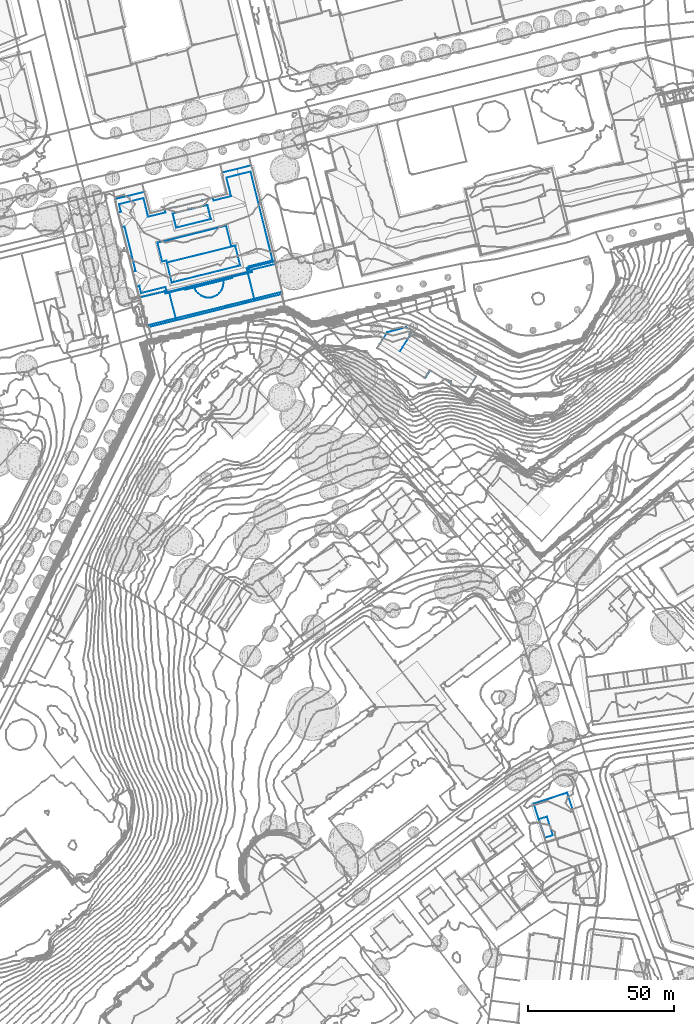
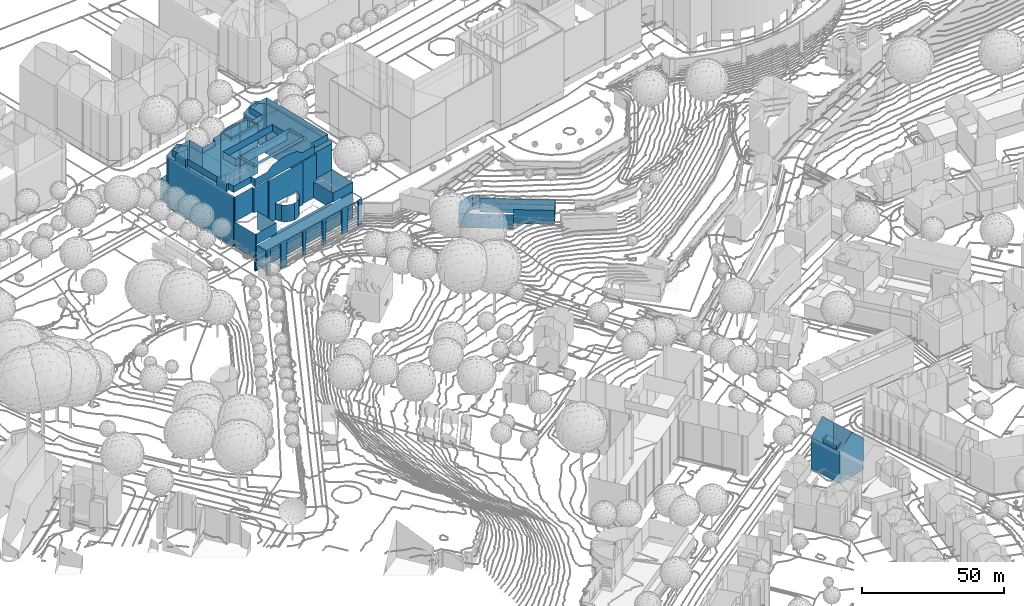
# Not in any storey, part 41 of 494: 3 walls.
"""IFC2X3 model written with IfcOpenShell, lengths in metres."""

from ifc_helpers import new_model, si_unit, frame, origin_with_axes, place, context, subcontext, project, faceted_brep, element, save


model = new_model("IFC2X3")

# Units and contexts
model_context = context("Model", 3, precision=1e-05, world=origin_with_axes())
body_context = subcontext(model_context, "Body", "Model", "MODEL_VIEW")
ifc_project = project(units=[si_unit("AREAUNIT", "SQUARE_METRE"), si_unit("LENGTHUNIT", "METRE")], contexts=[model_context])

# Walls
wall_1_placement = place(None, frame((444.9497320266, 154.9236160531, 498.9646), z_axis=(0.0, 0.0, 1.0), x_axis=(1.0, 0.0, 0.0)))
element("IfcWall", 1, at=wall_1_placement, Name="Wall 0", context=body_context, shape_type="Brep", body=[
    faceted_brep([(1.8170000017, -5.2655999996, 15.6915), (1.8170000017, -5.2655999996, 13.7497), (3.8170000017, -11.6053999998, 15.6915), (1.8170000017, -5.2655999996, 0.0), (3.8170000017, -11.6053999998, -0.083), (3.8170000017, -11.6053999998, 0.0), (1.8170000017, -5.2655999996, -0.083), (4.5199999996, -4.4131000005, 0.0), (6.5199999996, -10.753899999, 0.0), (4.5199999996, -4.4131000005, -0.083), (4.2390000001, -13.3515000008, 0.0), (0.0, 0.0, 13.6487), (0.0, 0.0, 0.0), (4.2390000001, -13.3515000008, 13.6667), (11.4510000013, 3.7851999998, 13.7747), (15.7390000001, -9.4306000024, 13.6967), (11.4510000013, 3.7851999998, 0.0), (15.7390000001, -9.4306000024, 0.0), (15.824000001, -9.6992000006, 13.6957), (15.824000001, -9.6992000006, 0.0), (0.4070000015, 0.1338, 13.9397), (0.4070000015, 0.1338, 0.0), (5.813000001, 1.9208999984, 0.0), (5.813000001, 1.9208999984, 19.4592), (11.2199999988, 3.7080000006, 13.9397), (11.2199999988, 3.7080000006, 0.0), (2.0839999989, -5.1816000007, 13.9397), (4.1539999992, -4.5293000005, 16.0445), (6.5199999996, -10.753899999, -0.083), (4.0839999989, -11.5214999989, 13.9397), (6.1539999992, -10.8691000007, 16.0445), (3.8170000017, -11.6053999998, 13.7497), (4.6229999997, -13.2303999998, 13.9397), (15.4829999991, -9.8066000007, 13.9397), (10.0920000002, -11.5058000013, 19.4192), (15.4829999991, -9.8066000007, 0.0), (10.0920000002, -11.5058000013, 0.0), (10.0529999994, -11.5175000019, 19.4592), (4.6229999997, -13.2303999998, 0.0), (10.0529999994, -11.5175000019, 0.0)], [[[0, 1, 2]], [[3, 4, 5]], [[4, 3, 6]], [[7, 8, 9]], [[10, 11, 12]], [[11, 10, 13]], [[14, 15, 16]], [[16, 15, 17]], [[17, 18, 19]], [[18, 17, 15]], [[16, 11, 20]], [[11, 21, 12]], [[22, 21, 11]], [[20, 23, 24]], [[14, 16, 20]], [[25, 22, 11]], [[11, 16, 25]], [[24, 14, 20]], [[7, 9, 6]], [[7, 6, 3]], [[1, 0, 26]], [[26, 0, 27]], [[5, 28, 8]], [[28, 5, 4]], [[29, 30, 31]], [[2, 31, 30]], [[32, 33, 34]], [[10, 18, 33]], [[18, 35, 19]], [[36, 35, 18]], [[34, 37, 32]], [[13, 10, 33]], [[10, 38, 18]], [[36, 18, 39]], [[39, 18, 38]], [[13, 33, 32]], [[31, 2, 1]], [[8, 28, 9]]]),
])
wall_2_placement = place(None, frame((300.9637320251, 364.7801160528, 537.8963), z_axis=(0.0, 0.0, 1.0), x_axis=(1.0, 0.0, 0.0)))
element("IfcWall", 2, at=wall_2_placement, Name="Wall 0", context=body_context, shape_type="Brep", body=[
    faceted_brep([(58.8509999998, -40.4404000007, 4.9125), (58.0329999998, -40.7666000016, 4.9125), (58.8509999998, -40.4404000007, -6.4715), (57.6660000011, -35.4618999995, 4.9125), (58.7060000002, -39.8291000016, 4.4505), (57.6660000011, -35.4618999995, 4.4505), (58.7060000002, -39.8291000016, -6.4715), (58.0490000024, -35.3662, 4.9125), (58.0490000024, -35.3662, 4.4505), (21.4079999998, -43.6601999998, 4.9125), (48.307, -36.9941999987, 4.9125), (21.4079999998, -43.6601999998, 1.8858), (52.1220000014, -42.2118999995, 4.4505), (56.9960000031, -41.0205000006, 4.4505), (49.2690000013, -42.9101999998, 4.4505), (58.0329999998, -40.7666000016, -6.4715), (41.501000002, -44.8115000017, 4.4505), (40.131000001, -45.1464999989, 4.4505), (40.131000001, -45.1464999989, -6.4714), (52.1220000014, -42.2118999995, -6.4715), (32.188000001, -47.0899000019, 4.4505), (56.9960000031, -41.0205000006, -6.4715), (41.501000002, -44.8115000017, -6.4714), (49.2690000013, -42.9101999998, -6.4715), (30.7829999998, -47.433600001, 4.4505), (13.4780000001, -51.6669999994, 4.9125), (22.9970000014, -49.3379000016, 4.4505), (32.188000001, -47.0899000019, -6.4714), (20.2660000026, -50.0069000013, 4.4505), (15.3530000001, -51.2080000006, 4.4505), (13.4780000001, -51.6669999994, -6.4714), (20.2660000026, -50.0067999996, -6.4714), (30.7829999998, -47.433600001, -6.4714), (15.3530000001, -51.2080000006, -6.4714), (22.9970000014, -49.3379000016, -6.4714), (21.5789999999, -44.3506000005, 9.588), (12.2490000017, -46.6621000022, 4.9125), (21.5789999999, -44.3506000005, 4.9125), (19.2240000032, -34.8456999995, 9.5881), (19.2240000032, -34.8456999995, 1.8858), (37.6650000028, -30.6640999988, -1.1589), (37.7380000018, -31.495099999, -1.1589), (37.6650000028, -30.6640999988, -1.2769), (27.9980000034, -33.6552999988, -1.1589), (27.7990000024, -33.1084000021, -1.1589), (27.9980000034, -33.6552999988, -1.2769), (28.443, -34.4268000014, -1.1589), (28.443, -34.4268000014, -1.2769), (29.0160000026, -35.1084000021, -1.1589), (29.0160000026, -35.1084000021, -1.2769), (30.074000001, -35.9199000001, 9.1841), (29.0160000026, -35.1084000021, 9.1841), (30.074000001, -35.9199000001, 1.8858), (30.881000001, -36.2978999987, -1.1589), (30.074000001, -35.9199000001, -1.1589), (30.881000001, -36.2978999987, -1.2769), (31.7410000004, -36.5274000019, -1.1589), (31.7410000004, -36.5274000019, -1.2769), (32.6290000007, -36.6055000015, -1.1589), (32.6290000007, -36.6055000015, -1.2769), (33.5160000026, -36.5274000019, -1.1589), (33.5160000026, -36.5274000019, -1.2769), (34.376000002, -36.2978999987, -1.1589), (34.376000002, -36.2978999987, -1.2769), (35.5590000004, -35.6816000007, -1.1589), (35.5590000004, -35.6816000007, -1.2769), (36.2420000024, -35.1084000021, -1.1589), (36.2420000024, -35.1084000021, -1.2769), (37.0540000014, -34.0507999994, 9.1841), (36.2420000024, -35.1084000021, 9.1841), (37.0540000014, -34.0507999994, 1.8858), (37.4299999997, -33.2432000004, -1.1589), (37.0540000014, -34.0507999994, -1.1589), (37.4299999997, -33.2432000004, -1.2769), (37.6600000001, -32.3828000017, -1.1589), (37.6600000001, -32.3828000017, -1.2769), (37.7380000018, -31.495099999, -1.2769), (37.6650000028, -30.6640999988, 9.1841), (37.7380000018, -31.495099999, 9.1841), (37.6650000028, -30.6640999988, 1.8858), (27.9980000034, -33.6552999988, 9.1841), (27.7990000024, -33.1084000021, 9.1841), (27.9980000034, -33.6552999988, 1.8858), (28.443, -34.4268000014, 9.1841), (28.443, -34.4268000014, 1.8858), (29.0160000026, -35.1084000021, 1.8858), (30.074000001, -35.9199000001, -1.2769), (30.881000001, -36.2978999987, 9.1841), (30.881000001, -36.2978999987, 1.8858), (31.7410000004, -36.5274000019, 9.1841), (31.7410000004, -36.5274000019, 1.8858), (32.6290000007, -36.6055000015, 9.1841), (32.6290000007, -36.6055000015, 1.8858), (33.5160000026, -36.5274000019, 9.1841), (33.5160000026, -36.5274000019, 1.8858), (34.376000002, -36.2978999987, 9.1841), (34.376000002, -36.2978999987, 1.8858), (35.5590000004, -35.6816000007, 9.1841), (35.5590000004, -35.6816000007, 1.8858), (36.2420000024, -35.1084000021, 1.8858), (37.0540000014, -34.0507999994, -1.2769), (37.4299999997, -33.2432000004, 9.1841), (37.4299999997, -33.2432000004, 1.8858), (37.6600000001, -32.3828000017, 9.1841), (37.6600000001, -32.3828000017, 1.8858), (37.7380000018, -31.495099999, 1.8858), (19.2240000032, -34.8456999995, -1.1589), (21.4079999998, -43.6601999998, -1.1589), (19.2240000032, -34.8456999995, -1.2229), (0.7870000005, -3.8740000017, 20.5981), (0.9510000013, -3.8330000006, 20.687), (0.7870000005, -3.8740000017, 15.0906), (0.9510000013, -3.8330000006, -1.3418), (0.7870000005, -3.8740000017, -1.3418), (11.0780000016, -1.3526000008, 9.6301), (10.9240000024, -1.3925999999, -1.3419), (10.9240000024, -1.3925999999, 20.76), (37.4010000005, 5.1552000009, 20.654), (37.5710000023, 5.1942999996, 12.4598), (37.4010000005, 5.1552999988, 9.6121), (37.5710000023, 5.1942999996, -1.3419), (47.5240000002, 7.6873999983, -1.3419), (47.5240000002, 7.6875, 20.775), (47.6920000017, 7.7285000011, 20.687), (47.6921000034, 7.7285000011, 15.1575), (47.6920000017, 7.7285000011, 9.6281), (47.6920000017, 7.7285000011, 4.0996), (47.6920000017, 7.7285000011, -1.3419), (55.4079999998, -24.6026000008, 20.589), (55.6980000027, -24.5331999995, 15.1045), (55.6980000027, -24.5331999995, 20.588), (55.6980000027, -24.5331999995, 9.622), (55.6980000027, -24.5331999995, -1.3419), (55.4079999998, -24.6026000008, -1.3419), (9.0480000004, -36.0459000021, 9.5881), (9.0480000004, -36.0498000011, 20.614), (8.814000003, -36.1044999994, 20.616), (9.0480000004, -36.0459000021, -1.2229), (8.814000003, -36.1044999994, -1.3419), (9.0480000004, -36.0498000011, -1.3419), (55.5190000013, -25.0557000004, 20.327), (47.3420000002, -27.0811000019, 8.9001), (55.5190000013, -25.0557000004, 8.9001), (47.3420000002, -27.0811000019, 20.327), (47.5280000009, -27.8320000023, 20.327), (45.7240000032, -26.5703000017, -1.3419), (55.3100000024, -24.2030999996, -1.3419), (45.7240000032, -26.5703000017, -1.4109), (36.6130000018, 9.0566000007, 9.4711), (46.5520000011, 11.5449000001, 9.4711), (36.6130000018, 9.0566000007, 0.7599), (34.0950000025, -2.371100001, 23.8777), (34.3390000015, -3.3535000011, 21.4279), (34.0950000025, -2.371100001, 20.833), (17.9100000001, -7.4237999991, 23.8777), (17.6640000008, -6.432599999, 23.8777), (17.9100000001, -7.4237999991, 21.428), (11.9610000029, -8.8984000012, 23.8777), (11.9610000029, -8.8984999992, 21.429), (0.0, 0.0, 9.4711), (9.9670000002, 2.4765000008, 9.4711), (0.0, 0.0, 0.0), (21.4079999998, -43.6601999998, -1.2229), (48.307, -36.9941999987, -1.159), (11.568, -46.0986000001, -6.4714), (11.568, -46.0986000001, -1.2229), (48.307, -36.9941999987, -1.4109), (57.8670000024, -34.625, -1.4109), (57.8670000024, -34.625, -6.4714), (17.6770000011, -34.4316999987, -1.2229), (9.1720000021, -36.5390999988, -1.2229), (17.6770000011, -34.4316999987, -1.3419), (17.6770000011, -34.4316999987, 20.327), (9.1720000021, -36.5390999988, 9.5881), (17.6770000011, -34.4316999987, 9.5881), (17.8630000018, -35.182599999, -1.2229), (17.8630000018, -35.182599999, -1.3419), (17.8630000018, -35.182599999, 20.327), (17.8630000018, -35.182599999, 9.5881), (24.5450000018, -33.5263999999, 20.327), (24.5450000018, -33.5263999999, 1.8858), (24.5450000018, -33.5263999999, -1.3419), (24.5450000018, -33.5263999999, -1.1589), (24.6359999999, -33.8925999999, 20.327), (24.6359999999, -33.8925999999, 1.8858), (24.6359999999, -33.8925999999, -1.1589), (24.6359999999, -33.8925999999, -1.3419), (40.7200000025, -29.9072000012, -1.1589), (27.7990000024, -33.1084000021, -1.2769), (40.7200000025, -29.9072000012, -1.3419), (40.7200000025, -29.9072000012, 20.327), (40.7200000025, -29.9072000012, 1.8858), (27.7990000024, -33.1084000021, 1.8858), (40.6290000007, -29.5410000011, 20.327), (40.6290000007, -29.5410000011, 1.8858), (40.6290000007, -29.5410000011, -1.1589), (40.6290000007, -29.5410000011, -1.3419), (46.1230000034, -28.1807000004, 8.9001), (47.5280000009, -27.8320000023, 8.9001), (46.1230000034, -28.1807000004, 1.8858), (46.1230000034, -28.1807000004, -1.1589), (46.1230000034, -28.1807000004, -1.3419), (58.0370000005, -35.317400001, 8.9001), (48.4780000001, -37.6865000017, 8.9001), (58.0370000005, -35.317400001, 4.9125), (48.4780000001, -37.6865000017, 4.9125), (48.307, -36.9941999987, 1.8858), (12.2380000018, -46.6172000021, 9.588), (11.7280000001, -46.7373000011, 9.588), (12.2380000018, -46.6172000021, -6.4714), (13.3270000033, -51.072300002, 4.4505), (12.2490000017, -46.6631000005, 4.4505), (13.3320000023, -51.0713, -6.4714), (12.2490000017, -46.6621000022, 9.588), (12.2490000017, -46.6631000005, -6.4714), (8.1330000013, -33.3682000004, 20.617), (7.9890000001, -32.7899999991, 20.616), (6.7240000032, -27.7089999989, 20.613), (2.943, -12.5283000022, 20.603), (1.6770000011, -7.4483000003, 20.6001), (0.7080000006, -2.8544999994, -1.3418), (0.7080000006, -2.8544999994, 0.0), (5.6190000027, -1.6376999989, -1.3418), (5.6190000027, -1.6376999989, 0.0), (10.6750000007, -0.3858000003, 0.0), (10.6750000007, -0.3858000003, -1.3418), (12.5890000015, -7.4287, -1.3419), (11.0780000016, -1.3526000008, -1.3419), (12.6469999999, -7.6621000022, -1.3419), (11.0780000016, -1.3526000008, 20.68), (12.5890000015, -7.4287, 20.678), (12.6469999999, -7.6621000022, 20.82), (38.8990000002, -0.870099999, 20.656), (38.9700000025, -1.1581999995, -1.3419), (38.9700000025, -1.1581999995, 20.83), (37.4010000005, 5.1552999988, -1.3419), (38.8990000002, -0.870099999, -1.3419), (21.318, -5.7001999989, -1.3419), (21.2770000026, -5.5459000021, -1.3419), (21.2770000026, -5.5459000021, 24.9056), (21.318, -5.7001999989, 24.9086), (0.7080000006, -2.8544999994, 20.686), (5.6190000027, -1.6376999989, 23.3528), (0.7080000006, -2.8544999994, 9.4711), (10.6750000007, -0.3858000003, 20.759), (10.6750000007, -0.3858000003, 9.4711), (5.6190000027, -1.6376999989, 9.4711), (37.318, 6.2168000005, 9.4711), (37.318, 6.2168000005, 20.741), (42.375, 7.4697000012, 9.4711), (47.2730000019, 8.683600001, 9.4711), (42.375, 7.4697000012, 23.3528), (47.2730000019, 8.683600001, 20.778), (46.5520000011, 11.5449000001, 0.7599), (47.2730000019, 8.683600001, 0.7599), (47.2730000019, 8.683600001, -1.3419), (55.6579999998, -24.371100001, 20.681), (37.5710000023, 5.1942999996, 20.741), (37.318, 6.2168000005, 0.7599), (37.318, 6.2168000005, -1.3419), (42.375, 7.4697000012, -1.3419), (42.375, 7.4697000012, 0.7599), (33.7430000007, -2.4589999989, 24.3917), (30.4520000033, -3.2774000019, 24.3967), (30.3570000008, -3.3018000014, 24.4837), (30.3568000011, -3.3018000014, -1.3419), (30.3940000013, -3.4512000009, 24.5826), (30.3740000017, -3.371100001, 24.4847), (30.3940000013, -3.4512000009, -1.3419), (17.6640000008, -6.432599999, 20.827), (18.0100000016, -6.3476999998, 24.3817), (20.7160000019, -5.6845999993, 24.3887), (24.2210000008, -4.9814999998, 25.8795), (21.7900000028, -5.5830000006, 25.3436), (25.626000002, -4.6338, 25.9505), (27.0300000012, -4.2851999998, 25.8795), (29.4630000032, -3.682599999, 25.3436), (30.2870000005, -3.4785000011, 24.5836), (9.9670000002, 2.4765000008, 0.0), (55.3100000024, -24.2030999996, -1.4109), (58.0370000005, -35.316399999, -6.4714), (58.0370000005, -35.316399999, 4.4505), (11.7280000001, -46.7373000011, -6.4714), (9.1710000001, -36.5390999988, -1.3419), (9.1710000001, -36.5390999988, 20.327), (24.444000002, -6.7910000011, 27.1334), (29.2829999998, -5.5927999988, 27.1324), (32.2520000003, -4.8564999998, 26.4105), (20.375, -7.7998000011, 27.1334), (20.375, -7.7998000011, 26.4105), (32.2520000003, -4.8564999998, 27.1324), (33.449000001, -9.6865000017, 27.1394), (30.4790000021, -10.4228999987, 27.1394), (33.449000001, -9.6865000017, 26.4105), (21.5710000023, -12.628899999, 27.1394), (21.5710000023, -12.628899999, 26.4105), (33.4350000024, -9.6317999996, 27.1724), (20.0600000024, -31.3905999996, 27.6293), (18.3850000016, -24.6317999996, 27.5583), (18.3770000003, -24.5976999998, 26.4105), (20.0600000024, -31.3905999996, 26.4104), (18.3770000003, -24.5976999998, 27.5383), (2.943, -12.5283000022, 23.8777), (2.8500000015, -12.1533000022, 24.1817), (1.7910000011, -7.9052999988, 24.1767), (1.6770000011, -7.4483000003, 23.8777), (7.9890000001, -32.7899999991, 23.8777), (7.8890000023, -32.3887000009, 24.2037), (6.8470000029, -28.2021999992, 24.1997), (6.7240000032, -27.7089999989, 23.8777), (32.268000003, -4.9228999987, 27.1734), (21.557, -12.5742000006, 27.1734), (20.3920000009, -7.8662, 27.1734), (43.4910000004, -25.5850000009, 27.6293), (41.8080000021, -18.7919999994, 26.4104), (41.8160000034, -18.8251999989, 27.5583), (43.4910000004, -25.5850000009, 26.4104), (41.8080000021, -18.7919999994, 27.5383), (43.432, -25.6006000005, 27.6663), (20.120000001, -31.375, 27.6663), (18.3710000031, -34.7675999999, 20.327), (18.3710000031, -34.7675999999, 23.8777), (18.2520000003, -34.2881000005, 20.327), (17.9210000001, -32.9501999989, 21.112), (17.9210000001, -32.9501999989, 23.8777), (9.5610000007, -35.0214999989, 21.112), (18.2440000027, -23.875, 26.4105), (18.4200000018, -24.5859999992, 26.4105), (18.2440000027, -23.875, 23.3527), (34.3390000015, -3.3535000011, 23.8777), (40.3460000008, -1.8652999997, 21.4289), (40.3460000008, -1.8652999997, 23.8777), (38.7640000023, 4.5194999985, 23.8777), (38.7640000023, 4.5194999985, 21.24), (40.2690000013, -1.5547000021, 21.24), (42.8550000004, 5.5331999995, 23.3528), (47.0410000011, 6.5702999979, 23.8777), (47.0410000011, 6.5702999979, 21.152), (54.5620000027, -23.7813000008, 21.1509), (54.5830000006, -23.8652999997, 23.8777), (54.5700000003, -23.8145000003, 21.1399), (54.5830000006, -23.8652999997, 21.1119), (46.3060000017, -25.9160000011, 23.8777), (46.3060000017, -25.9160000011, 21.1119), (46.756000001, -27.7334000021, 23.8777), (46.6380000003, -27.2558999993, 20.327), (46.756000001, -27.7334000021, 20.327), (2.6680000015, -7.2021999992, 21.138), (2.6680000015, -7.2021999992, 23.8777), (2.0190000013, -4.5850000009, 23.8777), (7.6900000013, -27.4706999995, 23.8777), (3.9270000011, -12.2842000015, 23.8777), (7.6900000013, -27.4706999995, 21.138), (9.5609000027, -35.0214999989, 23.8777), (9.5549999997, -34.996100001, 21.126), (9.5480000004, -34.9688000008, 21.136), (8.949000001, -32.5527000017, 23.8777), (8.949000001, -32.5527000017, 21.138), (10.3790000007, -2.5146999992, 23.8777), (10.3790000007, -2.5146999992, 21.157), (11.8500000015, -8.4512000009, 21.157), (2.0190000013, -4.5850000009, 21.138), (6.0990000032, -3.5742000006, 23.3528), (3.9270000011, -12.2842000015, 21.138), (16.7770000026, -24.2382999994, 26.4105), (16.7770000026, -24.2382999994, 23.3527), (15.1810000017, -17.8007999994, 26.4105), (15.1810000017, -17.8007999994, 23.3528), (38.6730000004, -11.9785000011, 26.4105), (38.6730000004, -11.9785000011, 23.3527), (40.4450000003, -19.1308999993, 26.4104), (40.4450000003, -19.1308999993, 23.3527), (24.2350000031, -23.1464999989, 27.5383), (18.4200000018, -24.5859999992, 23.3527), (30.0420000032, -21.7070000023, 27.5383), (26.6950000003, -32.7041000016, 25.6685), (40.7480000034, -29.2226999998, 23.8777), (38.3370000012, -29.8192999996, 25.6685), (30.3859999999, -31.7901000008, 26.3244), (34.6469999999, -30.7344000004, 26.3244), (24.2840000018, -33.3027000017, 23.8777), (32.5160000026, -31.2626999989, 26.4104), (56.8170000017, -40.2978999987, -6.4715), (56.8170000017, -40.2978999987, 4.4505), (15.2039999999, -50.6074000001, 4.4505), (15.2039999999, -50.6074000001, -6.4714), (20.1130000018, -49.3916000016, -6.4714), (20.1130000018, -49.3916000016, 4.4505), (22.8430000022, -48.7158000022, -6.4714), (22.8430000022, -48.7158000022, 4.4505), (30.6230000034, -46.7871000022, -6.4714), (30.6230000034, -46.7871000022, 4.4505), (32.0270000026, -46.4395000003, -6.4714), (32.0270000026, -46.4395000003, 4.4505), (39.9640000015, -44.4736000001, -6.4714), (39.9640000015, -44.4736000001, 4.4505), (41.3330000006, -44.1338, -6.4714), (41.3330000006, -44.1338, 4.4505), (49.0950000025, -42.2100000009, -6.4714), (49.0950000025, -42.2100000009, 4.4505), (51.9470000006, -41.503899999, -6.4715), (51.9470000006, -41.503899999, 4.4505), (24.9180000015, -11.8007999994, 27.1394)], [[[0, 1, 2]], [[3, 4, 5]], [[4, 3, 0]], [[4, 2, 6]], [[2, 4, 0]], [[7, 3, 8]], [[9, 10, 11]], [[1, 12, 13]], [[12, 1, 14]], [[1, 13, 15]], [[1, 16, 14]], [[16, 1, 17]], [[16, 17, 18]], [[19, 12, 14]], [[1, 20, 17]], [[21, 15, 13]], [[18, 22, 16]], [[19, 14, 23]], [[24, 25, 26]], [[25, 24, 20]], [[20, 24, 27]], [[28, 25, 29]], [[25, 28, 26]], [[29, 25, 30]], [[26, 28, 31]], [[20, 1, 25]], [[32, 27, 24]], [[30, 33, 29]], [[34, 26, 31]], [[35, 36, 37]], [[38, 9, 39]], [[9, 38, 35]], [[39, 9, 11]], [[37, 9, 35]], [[40, 41, 42]], [[43, 44, 45]], [[46, 43, 47]], [[48, 46, 49]], [[50, 51, 52]], [[53, 54, 55]], [[56, 53, 57]], [[58, 56, 59]], [[60, 58, 61]], [[62, 60, 63]], [[64, 62, 65]], [[66, 64, 67]], [[68, 69, 70]], [[71, 72, 73]], [[74, 71, 75]], [[41, 74, 76]], [[77, 78, 79]], [[80, 81, 82]], [[83, 80, 84]], [[51, 83, 85]], [[54, 48, 86]], [[87, 50, 88]], [[89, 87, 90]], [[91, 89, 92]], [[93, 91, 94]], [[95, 93, 96]], [[97, 95, 98]], [[69, 97, 99]], [[72, 66, 100]], [[101, 68, 102]], [[103, 101, 104]], [[78, 103, 105]], [[106, 107, 108]], [[109, 110, 111]], [[110, 112, 113]], [[114, 115, 116]], [[117, 118, 119]], [[120, 119, 118]], [[121, 122, 123]], [[124, 121, 123]], [[125, 121, 124]], [[126, 127, 121]], [[128, 129, 130]], [[131, 128, 132]], [[132, 128, 133]], [[134, 135, 136]], [[137, 134, 138]], [[137, 138, 139]], [[138, 134, 136]], [[140, 141, 142]], [[143, 144, 141]], [[145, 146, 147]], [[148, 149, 150]], [[151, 152, 153]], [[154, 155, 156]], [[157, 154, 158]], [[159, 160, 161]], [[162, 107, 163]], [[164, 165, 162]], [[162, 166, 164]], [[163, 166, 162]], [[167, 168, 166]], [[166, 168, 164]], [[169, 170, 171]], [[172, 173, 174]], [[175, 169, 176]], [[177, 172, 178]], [[179, 38, 180]], [[38, 179, 177]], [[180, 38, 39]], [[178, 38, 177]], [[181, 182, 108]], [[108, 182, 106]], [[108, 175, 176]], [[108, 176, 181]], [[183, 179, 184]], [[185, 182, 186]], [[187, 40, 42]], [[188, 189, 42]], [[42, 189, 187]], [[44, 185, 188]], [[186, 188, 185]], [[190, 77, 191]], [[77, 190, 81]], [[79, 191, 77]], [[81, 183, 184]], [[183, 81, 190]], [[184, 192, 81]], [[193, 190, 194]], [[195, 187, 196]], [[144, 197, 198]], [[197, 144, 193]], [[197, 194, 199]], [[194, 197, 193]], [[200, 195, 201]], [[202, 203, 204]], [[10, 205, 203]], [[10, 197, 199]], [[197, 10, 203]], [[10, 199, 206]], [[163, 201, 166]], [[201, 145, 147]], [[201, 147, 166]], [[207, 208, 209]], [[25, 210, 30]], [[210, 36, 211]], [[210, 212, 30]], [[213, 207, 36]], [[211, 209, 214]], [[36, 207, 211]], [[211, 207, 209]], [[136, 215, 138]], [[138, 216, 217]], [[216, 138, 215]], [[138, 217, 218]], [[111, 218, 219]], [[111, 219, 109]], [[113, 218, 111]], [[218, 113, 138]], [[220, 221, 222]], [[222, 221, 223]], [[223, 224, 225]], [[223, 225, 222]], [[226, 227, 114]], [[114, 228, 226]], [[229, 230, 228]], [[229, 228, 114]], [[228, 230, 231]], [[232, 117, 119]], [[232, 233, 234]], [[119, 235, 236]], [[236, 233, 119]], [[119, 233, 232]], [[237, 238, 239]], [[239, 240, 237]], [[241, 242, 243]], [[243, 242, 244]], [[244, 245, 246]], [[244, 246, 243]], [[247, 248, 249]], [[249, 248, 250]], [[250, 251, 252]], [[251, 250, 248]], [[250, 252, 122]], [[250, 253, 149]], [[253, 250, 254]], [[250, 121, 254]], [[121, 250, 122]], [[254, 121, 255]], [[124, 123, 256]], [[126, 132, 127]], [[131, 126, 125]], [[124, 129, 125]], [[256, 130, 129]], [[129, 131, 125]], [[132, 126, 131]], [[124, 256, 129]], [[118, 257, 248]], [[120, 118, 247]], [[248, 247, 118]], [[150, 258, 148]], [[259, 120, 258]], [[258, 120, 247]], [[259, 258, 260]], [[260, 258, 261]], [[261, 254, 255]], [[261, 255, 260]], [[262, 151, 263]], [[264, 263, 265]], [[151, 153, 263]], [[153, 234, 233]], [[265, 263, 233]], [[233, 263, 153]], [[266, 267, 268]], [[264, 265, 268]], [[264, 268, 267]], [[231, 269, 228]], [[238, 228, 269]], [[269, 239, 238]], [[155, 270, 271]], [[271, 239, 269]], [[155, 271, 269]], [[237, 272, 268]], [[237, 240, 273]], [[237, 273, 272]], [[272, 274, 268]], [[275, 276, 268]], [[268, 277, 266]], [[277, 268, 276]], [[275, 268, 274]], [[243, 112, 110]], [[243, 110, 241]], [[243, 159, 221]], [[161, 221, 159]], [[220, 112, 221]], [[221, 112, 243]], [[160, 245, 224]], [[224, 278, 160]], [[115, 225, 224]], [[224, 245, 115]], [[244, 116, 115]], [[244, 115, 245]], [[133, 128, 142]], [[133, 279, 146]], [[279, 133, 167]], [[142, 202, 204]], [[142, 128, 140]], [[204, 7, 8]], [[142, 204, 167]], [[168, 167, 280]], [[280, 167, 281]], [[8, 281, 204]], [[167, 204, 281]], [[167, 133, 142]], [[282, 208, 165]], [[165, 208, 170]], [[282, 165, 164]], [[283, 170, 139]], [[208, 173, 170]], [[134, 173, 284]], [[134, 284, 135]], [[137, 139, 170]], [[137, 173, 134]], [[137, 170, 173]], [[285, 286, 287]], [[288, 285, 289]], [[287, 289, 285]], [[286, 290, 287]], [[291, 292, 293]], [[294, 295, 293]], [[296, 291, 293]], [[297, 298, 299]], [[300, 297, 299]], [[298, 301, 299]], [[218, 302, 303]], [[218, 303, 304]], [[219, 304, 305]], [[304, 219, 218]], [[306, 307, 216]], [[216, 307, 217]], [[308, 309, 217]], [[308, 217, 307]], [[287, 290, 310]], [[296, 293, 310]], [[310, 293, 287]], [[295, 294, 311]], [[311, 312, 295]], [[289, 312, 288]], [[312, 289, 295]], [[313, 314, 315]], [[316, 314, 313]], [[315, 314, 317]], [[313, 318, 316]], [[300, 316, 319]], [[316, 318, 319]], [[300, 319, 297]], [[320, 321, 322]], [[321, 323, 322]], [[323, 321, 324]], [[324, 325, 323]], [[326, 327, 328]], [[329, 330, 152]], [[331, 332, 330]], [[330, 333, 334]], [[333, 332, 335]], [[335, 336, 337]], [[336, 335, 332]], [[336, 338, 337]], [[338, 336, 339]], [[339, 340, 338]], [[341, 340, 339]], [[339, 342, 341]], [[343, 342, 344]], [[345, 344, 346]], [[344, 345, 343]], [[305, 347, 219]], [[348, 349, 347]], [[350, 351, 352]], [[353, 354, 325]], [[354, 353, 355]], [[355, 356, 357]], [[356, 355, 353]], [[358, 158, 359]], [[359, 158, 360]], [[361, 349, 362]], [[362, 358, 359]], [[358, 362, 349]], [[351, 302, 363]], [[356, 306, 357]], [[309, 352, 217]], [[364, 326, 365]], [[366, 364, 367]], [[368, 366, 369]], [[370, 368, 371]], [[370, 301, 372]], [[301, 370, 327]], [[327, 299, 301]], [[373, 327, 370]], [[317, 314, 370]], [[317, 370, 374]], [[371, 373, 370]], [[375, 376, 377]], [[344, 376, 346]], [[346, 376, 320]], [[378, 377, 379]], [[378, 375, 377]], [[380, 321, 320]], [[381, 378, 379]], [[382, 383, 6]], [[214, 281, 211]], [[210, 384, 212]], [[385, 384, 33]], [[31, 28, 386]], [[386, 387, 388]], [[388, 389, 34]], [[32, 24, 390]], [[390, 391, 392]], [[392, 393, 27]], [[18, 17, 394]], [[394, 395, 396]], [[396, 397, 22]], [[23, 14, 398]], [[398, 399, 400]], [[400, 401, 19]], [[21, 13, 382]], [[1, 15, 2]], [[3, 5, 8]], [[10, 206, 11]], [[213, 36, 35]], [[41, 76, 42]], [[44, 188, 45]], [[43, 45, 47]], [[46, 47, 49]], [[51, 85, 52]], [[54, 86, 55]], [[53, 55, 57]], [[56, 57, 59]], [[58, 59, 61]], [[60, 61, 63]], [[62, 63, 65]], [[64, 65, 67]], [[69, 99, 70]], [[72, 100, 73]], [[71, 73, 75]], [[74, 75, 76]], [[78, 105, 79]], [[81, 192, 82]], [[80, 82, 84]], [[83, 84, 85]], [[48, 49, 86]], [[50, 52, 88]], [[87, 88, 90]], [[89, 90, 92]], [[91, 92, 94]], [[93, 94, 96]], [[95, 96, 98]], [[97, 98, 99]], [[66, 67, 100]], [[68, 70, 102]], [[101, 102, 104]], [[103, 104, 105]], [[107, 162, 108]], [[113, 111, 110]], [[114, 227, 115]], [[114, 116, 229]], [[235, 119, 120]], [[257, 118, 117]], [[125, 126, 121]], [[131, 129, 128]], [[143, 141, 140]], [[144, 198, 141]], [[146, 279, 147]], [[149, 253, 150]], [[329, 152, 151]], [[155, 269, 156]], [[154, 156, 158]], [[160, 278, 161]], [[170, 283, 171]], [[284, 173, 172]], [[169, 171, 176]], [[172, 174, 178]], [[179, 180, 184]], [[182, 181, 186]], [[186, 189, 188]], [[190, 191, 194]], [[187, 189, 196]], [[195, 196, 201]], [[203, 205, 204]], [[200, 201, 163]], [[208, 282, 209]], [[25, 36, 210]], [[258, 247, 148]], [[292, 402, 293]], [[293, 402, 294]], [[353, 325, 324]], [[327, 373, 328]], [[331, 330, 329]], [[332, 333, 330]], [[342, 343, 341]], [[348, 347, 305]], [[349, 361, 347]], [[351, 363, 352]], [[157, 158, 358]], [[302, 218, 363]], [[306, 216, 357]], [[350, 352, 309]], [[326, 328, 365]], [[364, 365, 367]], [[366, 367, 369]], [[368, 369, 371]], [[374, 370, 372]], [[380, 376, 375]], [[376, 380, 320]], [[383, 4, 6]], [[280, 281, 214]], [[384, 385, 212]], [[384, 29, 33]], [[28, 387, 386]], [[387, 389, 388]], [[389, 26, 34]], [[24, 391, 390]], [[391, 393, 392]], [[393, 20, 27]], [[17, 395, 394]], [[395, 397, 396]], [[397, 16, 22]], [[14, 399, 398]], [[399, 401, 400]], [[401, 12, 19]], [[13, 383, 382]]]),
])
wall_3_placement = place(None, frame((391.3277320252, 310.9148160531, 527.1172), z_axis=(0.0, 0.0, 1.0), x_axis=(1.0, 0.0, 0.0)))
element("IfcWall", 3, at=wall_3_placement, Name="Wall 0", context=body_context, shape_type="Brep", body=[
    faceted_brep([(30.3090000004, -15.3720000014, 6.0964), (18.0890000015, -7.6561999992, 6.0964), (30.3090000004, -15.3720000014, 0.0), (12.0410000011, 5.6563000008, 6.0964), (11.2880000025, 4.4638999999, 6.0964), (12.0410000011, 5.6563000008, 0.0), (9.9020000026, 7.1435999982, 6.4904), (9.9020000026, 7.1435999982, 0.0), (33.8420000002, -9.7773000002, 6.0964), (11.2880000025, 4.4638999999, 0.0), (16.3900000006, -10.3465999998, 6.0964), (0.0, 0.0, 6.0964), (16.3900000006, -10.3465999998, 0.0), (3.4290000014, 5.433600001, 6.5614), (4.3859999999, 5.6865999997, 6.6644), (4.3859999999, 5.6865999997, 0.0), (3.4290000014, 5.433600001, 0.0), (8.2710000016, 6.7128999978, 6.6644), (8.2710000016, 6.7128999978, 0.0), (7.7550000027, -1.1308000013, 6.0964), (8.6830000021, 0.3378999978, 6.9823), (8.6830000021, 0.3378999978, 6.0964), (9.5300000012, 1.6796999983, 6.0964), (33.8420000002, -9.7773000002, 0.0), (32.9730000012, -11.1543000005, 0.0), (32.0840000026, -12.5615000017, 6.0964), (32.0840000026, -12.5615000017, 0.0), (31.2369999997, -13.9023000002, 0.0), (31.2369999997, -13.9023000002, 6.9823), (32.9730000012, -11.1543000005, 6.9343), (10.4189999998, 3.0869999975, 6.9343), (10.4189999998, 3.0869999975, 6.0964), (18.0890000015, -7.6561999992, 0.0), (17.2910000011, -8.9199000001, 6.9543), (0.9010000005, 1.4267999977, 6.9543), (0.9010000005, 1.4267999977, 0.0), (0.0, 0.0, 0.0), (1.700000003, 2.6915000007, 0.0), (1.700000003, 2.6915000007, 6.0964)], [[[0, 1, 2]], [[3, 4, 5]], [[6, 3, 7]], [[4, 8, 9]], [[10, 11, 12]], [[13, 14, 15]], [[15, 16, 13]], [[14, 17, 15]], [[17, 6, 18]], [[7, 18, 6]], [[17, 18, 15]], [[19, 20, 21]], [[22, 21, 20]], [[23, 8, 24]], [[25, 26, 24]], [[25, 27, 26]], [[25, 24, 8]], [[0, 2, 27]], [[0, 25, 28]], [[27, 25, 0]], [[25, 8, 29]], [[22, 30, 31]], [[4, 31, 30]], [[1, 12, 32]], [[1, 33, 10]], [[1, 10, 12]], [[11, 34, 35]], [[35, 36, 11]], [[34, 37, 35]], [[38, 13, 16]], [[16, 37, 38]], [[38, 37, 34]], [[1, 32, 2]], [[4, 9, 5]], [[3, 5, 7]], [[8, 23, 9]], [[11, 36, 12]]]),
])

save(model, "model.ifc")
